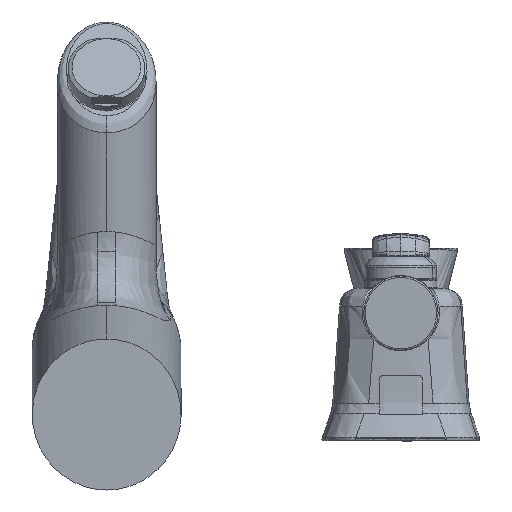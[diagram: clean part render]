
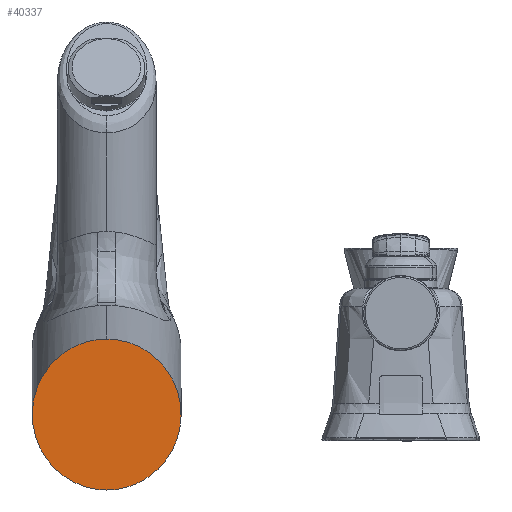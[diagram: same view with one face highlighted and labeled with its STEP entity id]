
A CAD part, front view. The second image highlights one B-rep face of the part: STEP entity #40337.
In plain terms, the highlighted planar face has unit normal (0, -1, 0).
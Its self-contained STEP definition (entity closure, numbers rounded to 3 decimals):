
#3813 = EDGE_CURVE ( 'NONE', #9110, #58773, #17120, .T. ) ;
#4115 = CARTESIAN_POINT ( 'NONE',  ( -46.419, 0., 23.66 ) ) ;
#5005 =( BOUNDED_CURVE ( )  B_SPLINE_CURVE ( 3, ( #15989, #9691, #51772, #58089 ),
 .UNSPECIFIED., .F., .T. ) 
 B_SPLINE_CURVE_WITH_KNOTS ( ( 4, 4 ),
 ( 0., 3.142 ),
 .UNSPECIFIED. ) 
 CURVE ( )  GEOMETRIC_REPRESENTATION_ITEM ( )  RATIONAL_B_SPLINE_CURVE ( ( 1., 0.333, 0.333, 1. ) ) 
 REPRESENTATION_ITEM ( '' )  );
#5148 = EDGE_CURVE ( 'NONE', #58773, #9110, #5005, .T. ) ;
#9110 = VERTEX_POINT ( 'NONE', #55777 ) ;
#9392 = CARTESIAN_POINT ( 'NONE',  ( 0.081, 0., -23.487 ) ) ;
#9691 = CARTESIAN_POINT ( 'NONE',  ( 46.581, 0., 23.66 ) ) ;
#12505 = AXIS2_PLACEMENT_3D ( 'NONE', #15711, #45700, #39649 ) ;
#14934 = PLANE ( 'NONE',  #12505 ) ;
#15711 = CARTESIAN_POINT ( 'NONE',  ( -23.634, 0., -23.959 ) ) ;
#15989 = CARTESIAN_POINT ( 'NONE',  ( 0.081, 0., 23.66 ) ) ;
#17120 =( BOUNDED_CURVE ( )  B_SPLINE_CURVE ( 3, ( #9392, #45674, #4115, #69104 ),
 .UNSPECIFIED., .F., .T. ) 
 B_SPLINE_CURVE_WITH_KNOTS ( ( 4, 4 ),
 ( 3.142, 6.283 ),
 .UNSPECIFIED. ) 
 CURVE ( )  GEOMETRIC_REPRESENTATION_ITEM ( )  RATIONAL_B_SPLINE_CURVE ( ( 1., 0.333, 0.333, 1. ) ) 
 REPRESENTATION_ITEM ( '' )  );
#17827 = FACE_OUTER_BOUND ( 'NONE', #73745, .T. ) ;
#39649 = DIRECTION ( 'NONE',  ( -1., 0., 0. ) ) ;
#40337 = ADVANCED_FACE ( 'NONE', ( #17827 ), #14934, .T. ) ;
#45674 = CARTESIAN_POINT ( 'NONE',  ( -46.419, 0., -23.487 ) ) ;
#45700 = DIRECTION ( 'NONE',  ( 0., -1., 0. ) ) ;
#49119 = ORIENTED_EDGE ( 'NONE', *, *, #5148, .F. ) ;
#51772 = CARTESIAN_POINT ( 'NONE',  ( 46.581, 0., -23.487 ) ) ;
#55777 = CARTESIAN_POINT ( 'NONE',  ( 0.081, 0., -23.487 ) ) ;
#58089 = CARTESIAN_POINT ( 'NONE',  ( 0.081, 0., -23.487 ) ) ;
#58773 = VERTEX_POINT ( 'NONE', #71103 ) ;
#63540 = ORIENTED_EDGE ( 'NONE', *, *, #3813, .F. ) ;
#69104 = CARTESIAN_POINT ( 'NONE',  ( 0.081, 0., 23.66 ) ) ;
#71103 = CARTESIAN_POINT ( 'NONE',  ( 0.081, 0., 23.66 ) ) ;
#73745 = EDGE_LOOP ( 'NONE', ( #49119, #63540 ) ) ;
